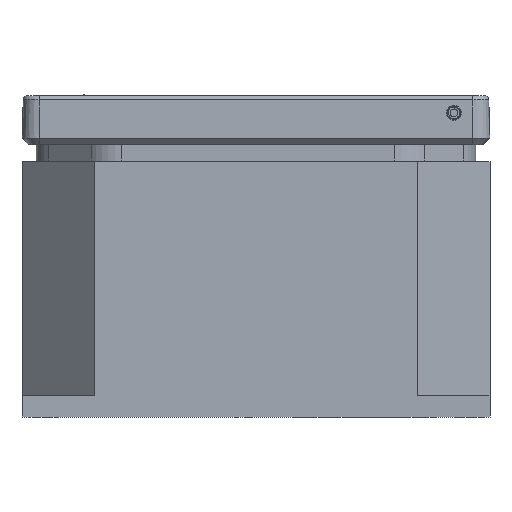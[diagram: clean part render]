
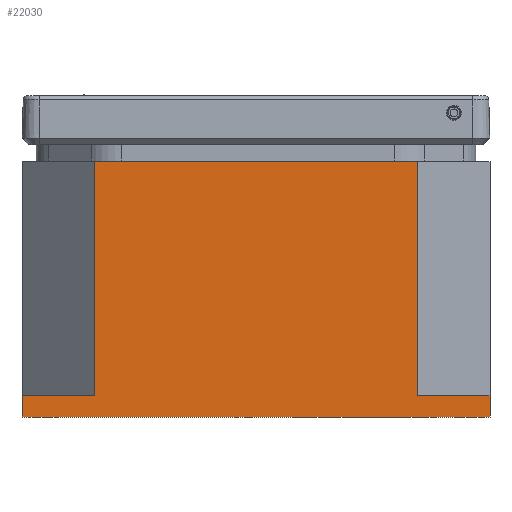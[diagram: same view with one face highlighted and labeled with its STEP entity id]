
A CAD part, left-side view. The second image highlights one B-rep face of the part: STEP entity #22030.
In plain terms, the highlighted planar face has unit normal (-1, 0, 0).
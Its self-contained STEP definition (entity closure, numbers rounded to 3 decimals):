
#1053=LINE('',#33033,#2811);
#1054=LINE('',#33035,#2812);
#1055=LINE('',#33037,#2813);
#1056=LINE('',#33039,#2814);
#1057=LINE('',#33041,#2815);
#1058=LINE('',#33043,#2816);
#1059=LINE('',#33045,#2817);
#1060=LINE('',#33046,#2818);
#2811=VECTOR('',#26030,1.);
#2812=VECTOR('',#26031,1.);
#2813=VECTOR('',#26032,1.);
#2814=VECTOR('',#26033,1.);
#2815=VECTOR('',#26034,1.);
#2816=VECTOR('',#26035,1.);
#2817=VECTOR('',#26036,1.);
#2818=VECTOR('',#26037,1.);
#4569=PLANE('',#23695);
#5218=FACE_OUTER_BOUND('',#6517,.T.);
#6517=EDGE_LOOP('',(#14507,#14508,#14509,#14510,#14511,#14512,#14513,#14514));
#9240=VERTEX_POINT('',#33031);
#9241=VERTEX_POINT('',#33032);
#9242=VERTEX_POINT('',#33034);
#9243=VERTEX_POINT('',#33036);
#9244=VERTEX_POINT('',#33038);
#9245=VERTEX_POINT('',#33040);
#9246=VERTEX_POINT('',#33042);
#9247=VERTEX_POINT('',#33044);
#11270=EDGE_CURVE('',#9240,#9241,#1053,.T.);
#11271=EDGE_CURVE('',#9242,#9240,#1054,.T.);
#11272=EDGE_CURVE('',#9242,#9243,#1055,.T.);
#11273=EDGE_CURVE('',#9243,#9244,#1056,.T.);
#11274=EDGE_CURVE('',#9245,#9244,#1057,.T.);
#11275=EDGE_CURVE('',#9246,#9245,#1058,.T.);
#11276=EDGE_CURVE('',#9247,#9246,#1059,.T.);
#11277=EDGE_CURVE('',#9241,#9247,#1060,.T.);
#14507=ORIENTED_EDGE('',*,*,#11270,.F.);
#14508=ORIENTED_EDGE('',*,*,#11271,.F.);
#14509=ORIENTED_EDGE('',*,*,#11272,.T.);
#14510=ORIENTED_EDGE('',*,*,#11273,.T.);
#14511=ORIENTED_EDGE('',*,*,#11274,.F.);
#14512=ORIENTED_EDGE('',*,*,#11275,.F.);
#14513=ORIENTED_EDGE('',*,*,#11276,.F.);
#14514=ORIENTED_EDGE('',*,*,#11277,.F.);
#22030=ADVANCED_FACE('',(#5218),#4569,.F.);
#23695=AXIS2_PLACEMENT_3D('',#33030,#26028,#26029);
#26028=DIRECTION('center_axis',(1.,0.,0.));
#26029=DIRECTION('ref_axis',(0.,1.,0.));
#26030=DIRECTION('',(0.,-1.,0.));
#26031=DIRECTION('',(0.,0.,1.));
#26032=DIRECTION('',(0.,-1.,0.));
#26033=DIRECTION('',(0.,0.,1.));
#26034=DIRECTION('',(0.,-1.,0.));
#26035=DIRECTION('',(0.,0.,-1.));
#26036=DIRECTION('',(0.,-1.,0.));
#26037=DIRECTION('',(0.,0.,1.));
#33030=CARTESIAN_POINT('Origin',(-47.5,55.,-60.));
#33031=CARTESIAN_POINT('',(-47.5,55.,-55.));
#33032=CARTESIAN_POINT('',(-47.5,38.,-55.));
#33033=CARTESIAN_POINT('',(-47.5,0.,-55.));
#33034=CARTESIAN_POINT('',(-47.5,55.,-60.));
#33035=CARTESIAN_POINT('',(-47.5,55.,-60.));
#33036=CARTESIAN_POINT('',(-47.5,-55.,-60.));
#33037=CARTESIAN_POINT('',(-47.5,55.,-60.));
#33038=CARTESIAN_POINT('',(-47.5,-55.,-55.));
#33039=CARTESIAN_POINT('',(-47.5,-55.,-60.));
#33040=CARTESIAN_POINT('',(-47.5,-38.,-55.));
#33041=CARTESIAN_POINT('',(-47.5,0.,-55.));
#33042=CARTESIAN_POINT('',(-47.5,-38.,0.));
#33043=CARTESIAN_POINT('',(-47.5,-38.,-60.));
#33044=CARTESIAN_POINT('',(-47.5,38.,0.));
#33045=CARTESIAN_POINT('',(-47.5,55.,0.));
#33046=CARTESIAN_POINT('',(-47.5,38.,-60.));
